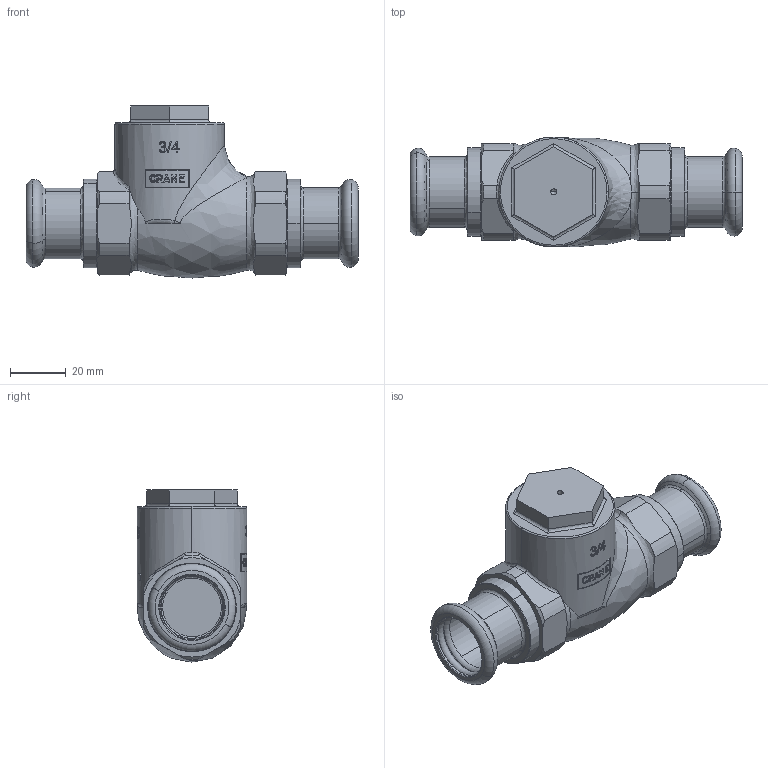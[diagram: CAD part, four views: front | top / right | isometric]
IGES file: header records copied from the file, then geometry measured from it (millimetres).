
Global section: file name: No Iges File Name specified; native system: AutoDesk Inventor R12.0; preprocessor: AutoDesk Inventor Iges Exporter R12.0; date: 20110823.125336; units: millimetre
Bounding box: 119 x 39.4 x 61.7 mm (x, y, z)
Volume: 94382.7 mm3; surface area: 29154.5 mm2
Topology: 1 solids, 4 shells, 503 faces, 1387 edges, 916 vertices
Faces by surface type: bspline 237, plane 125, revolution 44, cylinder 43, cone 36, torus 18
